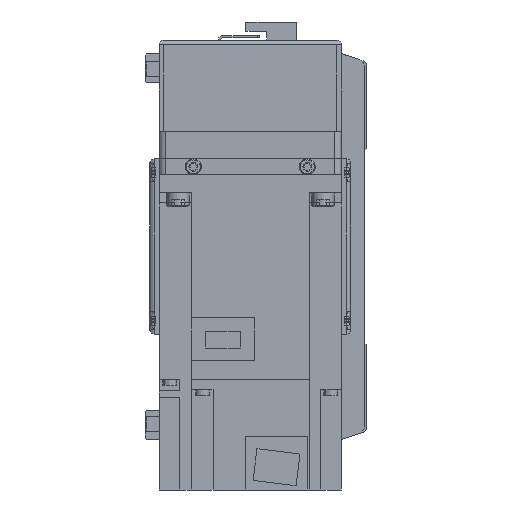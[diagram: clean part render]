
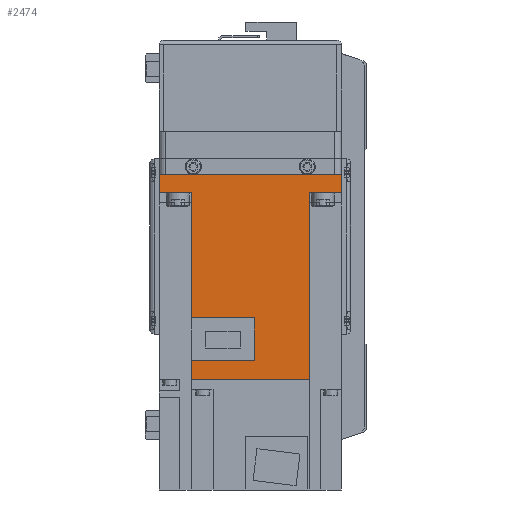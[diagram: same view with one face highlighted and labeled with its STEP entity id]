
A CAD part, left-side view. The second image highlights one B-rep face of the part: STEP entity #2474.
In plain terms, the highlighted planar face has unit normal (-1, 0, 0) as drawn and (1, 0, 0) by its records, which use the part's own axes.
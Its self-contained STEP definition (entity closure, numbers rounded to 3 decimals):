
#2474 = ADVANCED_FACE( '', ( #5494 ), #5495, .F. );
#5494 = FACE_OUTER_BOUND( '', #9174, .T. );
#5495 = PLANE( '', #9175 );
#9174 = EDGE_LOOP( '', ( #16148, #16149, #16150, #16151, #16152, #16153, #16154, #16155, #16156, #16157, #16158, #16159 ) );
#9175 = AXIS2_PLACEMENT_3D( '', #16160, #16161, #16162 );
#16148 = ORIENTED_EDGE( '', *, *, #22173, .F. );
#16149 = ORIENTED_EDGE( '', *, *, #21686, .F. );
#16150 = ORIENTED_EDGE( '', *, *, #23003, .F. );
#16151 = ORIENTED_EDGE( '', *, *, #23112, .T. );
#16152 = ORIENTED_EDGE( '', *, *, #21994, .F. );
#16153 = ORIENTED_EDGE( '', *, *, #21651, .T. );
#16154 = ORIENTED_EDGE( '', *, *, #22265, .T. );
#16155 = ORIENTED_EDGE( '', *, *, #23294, .F. );
#16156 = ORIENTED_EDGE( '', *, *, #23295, .F. );
#16157 = ORIENTED_EDGE( '', *, *, #21688, .F. );
#16158 = ORIENTED_EDGE( '', *, *, #23296, .F. );
#16159 = ORIENTED_EDGE( '', *, *, #23215, .F. );
#16160 = CARTESIAN_POINT( '', ( 40., 89.8, 40. ) );
#16161 = DIRECTION( '', ( -1., 0., 0. ) );
#16162 = DIRECTION( '', ( 0., 0., 1. ) );
#21651 = EDGE_CURVE( '', #26185, #26183, #26186, .T. );
#21686 = EDGE_CURVE( '', #26243, #26245, #26246, .T. );
#21688 = EDGE_CURVE( '', #26247, #26249, #26250, .T. );
#21994 = EDGE_CURVE( '', #26185, #26747, #26748, .T. );
#22173 = EDGE_CURVE( '', #26245, #27030, #27031, .T. );
#22265 = EDGE_CURVE( '', #26183, #27171, #27173, .T. );
#23003 = EDGE_CURVE( '', #28268, #26243, #28270, .T. );
#23112 = EDGE_CURVE( '', #28268, #26747, #28424, .T. );
#23215 = EDGE_CURVE( '', #27030, #28562, #28563, .T. );
#23294 = EDGE_CURVE( '', #28674, #27171, #28675, .T. );
#23295 = EDGE_CURVE( '', #26249, #28674, #28676, .T. );
#23296 = EDGE_CURVE( '', #28562, #26247, #28677, .T. );
#26183 = VERTEX_POINT( '', #32806 );
#26185 = VERTEX_POINT( '', #32809 );
#26186 = LINE( '', #32810, #32811 );
#26243 = VERTEX_POINT( '', #32884 );
#26245 = VERTEX_POINT( '', #32887 );
#26246 = LINE( '', #32888, #32889 );
#26247 = VERTEX_POINT( '', #32890 );
#26249 = VERTEX_POINT( '', #32893 );
#26250 = LINE( '', #32894, #32895 );
#26747 = VERTEX_POINT( '', #33605 );
#26748 = LINE( '', #33606, #33607 );
#27030 = VERTEX_POINT( '', #34051 );
#27031 = LINE( '', #34052, #34053 );
#27171 = VERTEX_POINT( '', #34297 );
#27173 = LINE( '', #34300, #34301 );
#28268 = VERTEX_POINT( '', #36199 );
#28270 = LINE( '', #36202, #36203 );
#28424 = LINE( '', #36426, #36427 );
#28562 = VERTEX_POINT( '', #36614 );
#28563 = LINE( '', #36615, #36616 );
#28674 = VERTEX_POINT( '', #36784 );
#28675 = LINE( '', #36785, #36786 );
#28676 = LINE( '', #36787, #36788 );
#28677 = LINE( '', #36789, #36790 );
#32806 = CARTESIAN_POINT( '', ( 40., 0., 40. ) );
#32809 = CARTESIAN_POINT( '', ( 40., 8., 40. ) );
#32810 = CARTESIAN_POINT( '', ( 40., 89.8, 40. ) );
#32811 = VECTOR( '', #40039, 1000. );
#32884 = CARTESIAN_POINT( '', ( 40., 89.8, -25.95 ) );
#32887 = CARTESIAN_POINT( '', ( 40., 81.4, -25.95 ) );
#32888 = CARTESIAN_POINT( '', ( 40., 158., -25.95 ) );
#32889 = VECTOR( '', #40087, 1000. );
#32890 = CARTESIAN_POINT( '', ( 40., 62.8, -25.95 ) );
#32893 = CARTESIAN_POINT( '', ( 40., 8., -25.95 ) );
#32894 = CARTESIAN_POINT( '', ( 40., 158., -25.95 ) );
#32895 = VECTOR( '', #40089, 1000. );
#33605 = CARTESIAN_POINT( '', ( 40., 8., 25.95 ) );
#33606 = CARTESIAN_POINT( '', ( 40., 8., 40. ) );
#33607 = VECTOR( '', #40532, 1000. );
#34051 = CARTESIAN_POINT( '', ( 40., 81.4, 1.8 ) );
#34052 = CARTESIAN_POINT( '', ( 40., 81.4, -26. ) );
#34053 = VECTOR( '', #40766, 1000. );
#34297 = CARTESIAN_POINT( '', ( 40., 0., -40. ) );
#34300 = CARTESIAN_POINT( '', ( 40., 0., 40. ) );
#34301 = VECTOR( '', #40877, 1000. );
#36199 = CARTESIAN_POINT( '', ( 40., 89.8, 25.95 ) );
#36202 = CARTESIAN_POINT( '', ( 40., 89.8, 40. ) );
#36203 = VECTOR( '', #41728, 1000. );
#36426 = CARTESIAN_POINT( '', ( 40., 158., 25.95 ) );
#36427 = VECTOR( '', #41831, 1000. );
#36614 = CARTESIAN_POINT( '', ( 40., 62.8, 1.8 ) );
#36615 = CARTESIAN_POINT( '', ( 40., 81.4, 1.8 ) );
#36616 = VECTOR( '', #41955, 1000. );
#36784 = CARTESIAN_POINT( '', ( 40., 8., -40. ) );
#36785 = CARTESIAN_POINT( '', ( 40., 89.8, -40. ) );
#36786 = VECTOR( '', #42042, 1000. );
#36787 = CARTESIAN_POINT( '', ( 40., 8., 40. ) );
#36788 = VECTOR( '', #42043, 1000. );
#36789 = CARTESIAN_POINT( '', ( 40., 62.8, 1.8 ) );
#36790 = VECTOR( '', #42044, 1000. );
#40039 = DIRECTION( '', ( 0., -1., 0. ) );
#40087 = DIRECTION( '', ( 0., -1., 0. ) );
#40089 = DIRECTION( '', ( 0., -1., 0. ) );
#40532 = DIRECTION( '', ( 0., 0., -1. ) );
#40766 = DIRECTION( '', ( 0., 0., 1. ) );
#40877 = DIRECTION( '', ( 0., 0., -1. ) );
#41728 = DIRECTION( '', ( 0., 0., -1. ) );
#41831 = DIRECTION( '', ( 0., -1., 0. ) );
#41955 = DIRECTION( '', ( 0., -1., 0. ) );
#42042 = DIRECTION( '', ( 0., -1., 0. ) );
#42043 = DIRECTION( '', ( 0., 0., -1. ) );
#42044 = DIRECTION( '', ( 0., 0., -1. ) );
